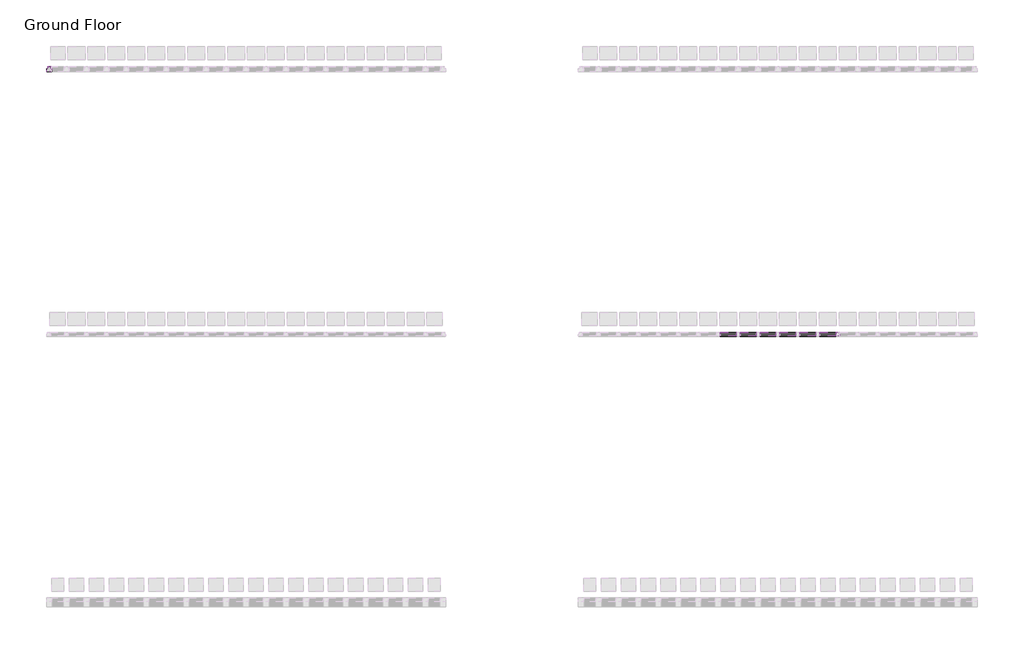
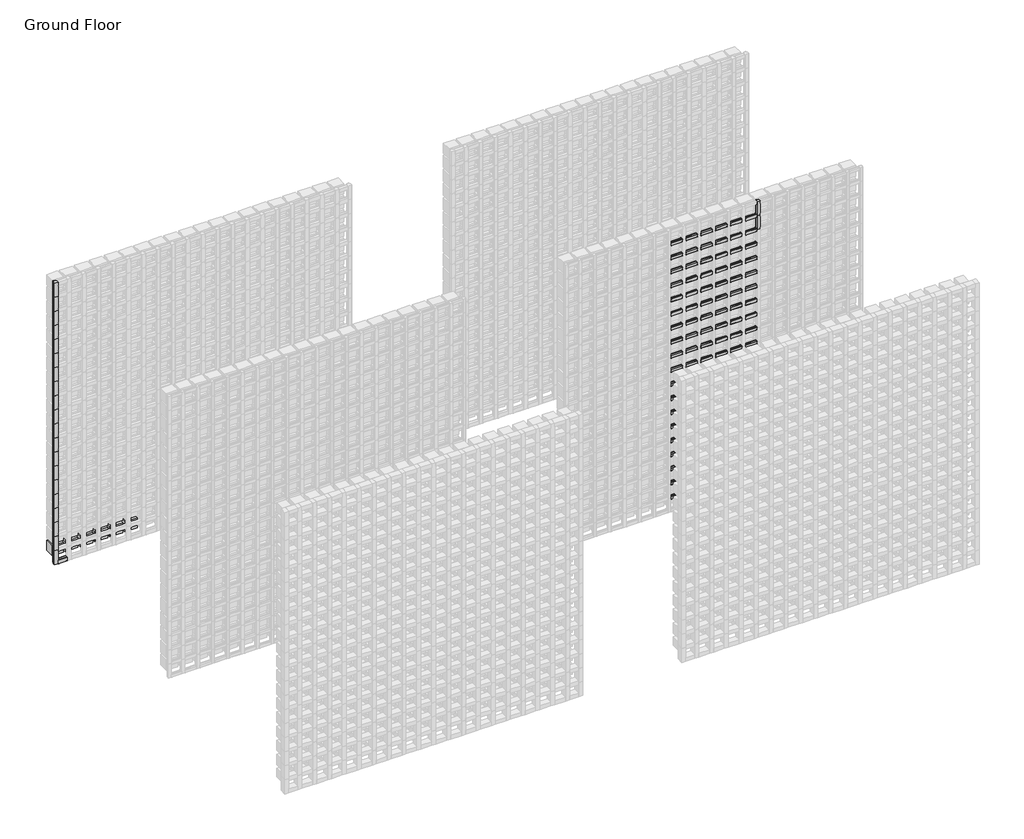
# One storey, part 108 of 350: 137 members, 6 plates.
"""IFC4 building model written with IfcOpenShell, lengths in millimetres."""

from ifc_helpers import new_model, si_unit, origin, place, context, project, spatial, transform, mapped, element, save
from components import rectangular_mullion_f1976eb1, rectangular_mullion_707a50c4, rectangular_mullion_b3ed1982, rectangular_mullion_db99d02b, empty_system_panel_empty_abd50de3, empty_system_panel_empty_5e80e148

model = new_model("IFC4")

# Units and contexts
model_context = context("Model", 3, world=origin())
ifc_project = project(units=[si_unit("LENGTHUNIT", "METRE", prefix="MILLI")], contexts=[model_context])

# Site, building, storey
site = spatial("IfcSite", under=ifc_project)
building = spatial("IfcBuilding", under=site)
storey = spatial("IfcBuildingStorey", under=building, Name="Ground Floor", Elevation=0.0)

# Members
placement = place(None, origin())
rectangular_mullion_shape = rectangular_mullion_f1976eb1(model_context)
element("IfcMember", 1, ObjectType="Rectangular Mullion : Batten_Timber_Modinex_Austratus_Grid_Fin_30x30_Blackbutt", at=placement, inside=storey, context=model_context, shape_type="MappedRepresentation", body=[
    mapped(rectangular_mullion_shape, transform((7866.4361642, 42968.2978302, 2700.0), x_axis=(1.0, 0.0, 0.0), y_axis=(0.0, -1.0, 0.0), z_axis=(0.0, 0.0, -1.0))),
])
element("IfcMember", 2, ObjectType="Rectangular Mullion : Batten_Timber_Modinex_Austratus_Grid_Fin_30x30_Blackbutt", at=placement, inside=storey, context=model_context, shape_type="MappedRepresentation", body=[
    mapped(rectangular_mullion_shape, transform((7866.4361642, 42968.2978302, 2850.0), x_axis=(1.0, 0.0, 0.0), y_axis=(0.0, -1.0, 0.0), z_axis=(0.0, 0.0, -1.0))),
])
rectangular_mullion_2_shape = rectangular_mullion_707a50c4(model_context)
element("IfcMember", 3, ObjectType="Rectangular Mullion : Batten_Timber_Modinex_Austratus_Grid_Fin_30x30_Blackbutt", at=placement, inside=storey, context=model_context, shape_type="MappedRepresentation", body=[
    mapped(rectangular_mullion_2_shape, transform((7101.4361642, 42968.2978302, 150.0), x_axis=(0.0, 0.0, 1.0), y_axis=(0.0, -1.0, 0.0), z_axis=(1.0, 0.0, 0.0))),
])
element("IfcMember", 4, ObjectType="Rectangular Mullion : Batten_Timber_Modinex_Austratus_Grid_Fin_30x30_Blackbutt", at=placement, inside=storey, context=model_context, shape_type="MappedRepresentation", body=[
    mapped(rectangular_mullion_2_shape, transform((7251.4361642, 42968.2978302, 150.0), x_axis=(0.0, 0.0, 1.0), y_axis=(0.0, -1.0, 0.0), z_axis=(1.0, 0.0, 0.0))),
])
element("IfcMember", 5, ObjectType="Rectangular Mullion : Batten_Timber_Modinex_Austratus_Grid_Fin_30x30_Blackbutt", at=placement, inside=storey, context=model_context, shape_type="MappedRepresentation", body=[
    mapped(rectangular_mullion_2_shape, transform((7401.4361642, 42968.2978302, 150.0), x_axis=(0.0, 0.0, 1.0), y_axis=(0.0, -1.0, 0.0), z_axis=(1.0, 0.0, 0.0))),
])
element("IfcMember", 6, ObjectType="Rectangular Mullion : Batten_Timber_Modinex_Austratus_Grid_Fin_30x30_Blackbutt", at=placement, inside=storey, context=model_context, shape_type="MappedRepresentation", body=[
    mapped(rectangular_mullion_2_shape, transform((7551.4361642, 42968.2978302, 150.0), x_axis=(0.0, 0.0, 1.0), y_axis=(0.0, -1.0, 0.0), z_axis=(1.0, 0.0, 0.0))),
])
element("IfcMember", 7, ObjectType="Rectangular Mullion : Batten_Timber_Modinex_Austratus_Grid_Fin_30x30_Blackbutt", at=placement, inside=storey, context=model_context, shape_type="MappedRepresentation", body=[
    mapped(rectangular_mullion_2_shape, transform((7701.4361642, 42968.2978302, 150.0), x_axis=(0.0, 0.0, 1.0), y_axis=(0.0, -1.0, 0.0), z_axis=(1.0, 0.0, 0.0))),
])
element("IfcMember", 8, ObjectType="Rectangular Mullion : Batten_Timber_Modinex_Austratus_Grid_Fin_30x30_Blackbutt", at=placement, inside=storey, context=model_context, shape_type="MappedRepresentation", body=[
    mapped(rectangular_mullion_2_shape, transform((7851.4361642, 42968.2978302, 150.0), x_axis=(0.0, 0.0, 1.0), y_axis=(0.0, -1.0, 0.0), z_axis=(1.0, 0.0, 0.0))),
])
element("IfcMember", 9, ObjectType="Rectangular Mullion : Batten_Timber_Modinex_Austratus_Grid_Fin_30x30_Blackbutt", at=placement, inside=storey, context=model_context, shape_type="MappedRepresentation", body=[
    mapped(rectangular_mullion_2_shape, transform((7101.4361642, 42968.2978302, 300.0), x_axis=(0.0, 0.0, 1.0), y_axis=(0.0, -1.0, 0.0), z_axis=(1.0, 0.0, 0.0))),
])
element("IfcMember", 10, ObjectType="Rectangular Mullion : Batten_Timber_Modinex_Austratus_Grid_Fin_30x30_Blackbutt", at=placement, inside=storey, context=model_context, shape_type="MappedRepresentation", body=[
    mapped(rectangular_mullion_2_shape, transform((7251.4361642, 42968.2978302, 300.0), x_axis=(0.0, 0.0, 1.0), y_axis=(0.0, -1.0, 0.0), z_axis=(1.0, 0.0, 0.0))),
])
element("IfcMember", 11, ObjectType="Rectangular Mullion : Batten_Timber_Modinex_Austratus_Grid_Fin_30x30_Blackbutt", at=placement, inside=storey, context=model_context, shape_type="MappedRepresentation", body=[
    mapped(rectangular_mullion_2_shape, transform((7401.4361642, 42968.2978302, 300.0), x_axis=(0.0, 0.0, 1.0), y_axis=(0.0, -1.0, 0.0), z_axis=(1.0, 0.0, 0.0))),
])
element("IfcMember", 12, ObjectType="Rectangular Mullion : Batten_Timber_Modinex_Austratus_Grid_Fin_30x30_Blackbutt", at=placement, inside=storey, context=model_context, shape_type="MappedRepresentation", body=[
    mapped(rectangular_mullion_2_shape, transform((7551.4361642, 42968.2978302, 300.0), x_axis=(0.0, 0.0, 1.0), y_axis=(0.0, -1.0, 0.0), z_axis=(1.0, 0.0, 0.0))),
])
element("IfcMember", 13, ObjectType="Rectangular Mullion : Batten_Timber_Modinex_Austratus_Grid_Fin_30x30_Blackbutt", at=placement, inside=storey, context=model_context, shape_type="MappedRepresentation", body=[
    mapped(rectangular_mullion_2_shape, transform((7701.4361642, 42968.2978302, 300.0), x_axis=(0.0, 0.0, 1.0), y_axis=(0.0, -1.0, 0.0), z_axis=(1.0, 0.0, 0.0))),
])
element("IfcMember", 14, ObjectType="Rectangular Mullion : Batten_Timber_Modinex_Austratus_Grid_Fin_30x30_Blackbutt", at=placement, inside=storey, context=model_context, shape_type="MappedRepresentation", body=[
    mapped(rectangular_mullion_2_shape, transform((7851.4361642, 42968.2978302, 300.0), x_axis=(0.0, 0.0, 1.0), y_axis=(0.0, -1.0, 0.0), z_axis=(1.0, 0.0, 0.0))),
])
element("IfcMember", 15, ObjectType="Rectangular Mullion : Batten_Timber_Modinex_Austratus_Grid_Fin_30x30_Blackbutt", at=placement, inside=storey, context=model_context, shape_type="MappedRepresentation", body=[
    mapped(rectangular_mullion_2_shape, transform((7101.4361642, 42968.2978302, 450.0), x_axis=(0.0, 0.0, 1.0), y_axis=(0.0, -1.0, 0.0), z_axis=(1.0, 0.0, 0.0))),
])
element("IfcMember", 16, ObjectType="Rectangular Mullion : Batten_Timber_Modinex_Austratus_Grid_Fin_30x30_Blackbutt", at=placement, inside=storey, context=model_context, shape_type="MappedRepresentation", body=[
    mapped(rectangular_mullion_2_shape, transform((7251.4361642, 42968.2978302, 450.0), x_axis=(0.0, 0.0, 1.0), y_axis=(0.0, -1.0, 0.0), z_axis=(1.0, 0.0, 0.0))),
])
element("IfcMember", 17, ObjectType="Rectangular Mullion : Batten_Timber_Modinex_Austratus_Grid_Fin_30x30_Blackbutt", at=placement, inside=storey, context=model_context, shape_type="MappedRepresentation", body=[
    mapped(rectangular_mullion_2_shape, transform((7401.4361642, 42968.2978302, 450.0), x_axis=(0.0, 0.0, 1.0), y_axis=(0.0, -1.0, 0.0), z_axis=(1.0, 0.0, 0.0))),
])
element("IfcMember", 18, ObjectType="Rectangular Mullion : Batten_Timber_Modinex_Austratus_Grid_Fin_30x30_Blackbutt", at=placement, inside=storey, context=model_context, shape_type="MappedRepresentation", body=[
    mapped(rectangular_mullion_2_shape, transform((7551.4361642, 42968.2978302, 450.0), x_axis=(0.0, 0.0, 1.0), y_axis=(0.0, -1.0, 0.0), z_axis=(1.0, 0.0, 0.0))),
])
element("IfcMember", 19, ObjectType="Rectangular Mullion : Batten_Timber_Modinex_Austratus_Grid_Fin_30x30_Blackbutt", at=placement, inside=storey, context=model_context, shape_type="MappedRepresentation", body=[
    mapped(rectangular_mullion_2_shape, transform((7701.4361642, 42968.2978302, 450.0), x_axis=(0.0, 0.0, 1.0), y_axis=(0.0, -1.0, 0.0), z_axis=(1.0, 0.0, 0.0))),
])
element("IfcMember", 20, ObjectType="Rectangular Mullion : Batten_Timber_Modinex_Austratus_Grid_Fin_30x30_Blackbutt", at=placement, inside=storey, context=model_context, shape_type="MappedRepresentation", body=[
    mapped(rectangular_mullion_2_shape, transform((7851.4361642, 42968.2978302, 450.0), x_axis=(0.0, 0.0, 1.0), y_axis=(0.0, -1.0, 0.0), z_axis=(1.0, 0.0, 0.0))),
])
element("IfcMember", 21, ObjectType="Rectangular Mullion : Batten_Timber_Modinex_Austratus_Grid_Fin_30x30_Blackbutt", at=placement, inside=storey, context=model_context, shape_type="MappedRepresentation", body=[
    mapped(rectangular_mullion_2_shape, transform((7101.4361642, 42968.2978302, 600.0), x_axis=(0.0, 0.0, 1.0), y_axis=(0.0, -1.0, 0.0), z_axis=(1.0, 0.0, 0.0))),
])
element("IfcMember", 22, ObjectType="Rectangular Mullion : Batten_Timber_Modinex_Austratus_Grid_Fin_30x30_Blackbutt", at=placement, inside=storey, context=model_context, shape_type="MappedRepresentation", body=[
    mapped(rectangular_mullion_2_shape, transform((7251.4361642, 42968.2978302, 600.0), x_axis=(0.0, 0.0, 1.0), y_axis=(0.0, -1.0, 0.0), z_axis=(1.0, 0.0, 0.0))),
])
element("IfcMember", 23, ObjectType="Rectangular Mullion : Batten_Timber_Modinex_Austratus_Grid_Fin_30x30_Blackbutt", at=placement, inside=storey, context=model_context, shape_type="MappedRepresentation", body=[
    mapped(rectangular_mullion_2_shape, transform((7401.4361642, 42968.2978302, 600.0), x_axis=(0.0, 0.0, 1.0), y_axis=(0.0, -1.0, 0.0), z_axis=(1.0, 0.0, 0.0))),
])
element("IfcMember", 24, ObjectType="Rectangular Mullion : Batten_Timber_Modinex_Austratus_Grid_Fin_30x30_Blackbutt", at=placement, inside=storey, context=model_context, shape_type="MappedRepresentation", body=[
    mapped(rectangular_mullion_2_shape, transform((7551.4361642, 42968.2978302, 600.0), x_axis=(0.0, 0.0, 1.0), y_axis=(0.0, -1.0, 0.0), z_axis=(1.0, 0.0, 0.0))),
])
element("IfcMember", 25, ObjectType="Rectangular Mullion : Batten_Timber_Modinex_Austratus_Grid_Fin_30x30_Blackbutt", at=placement, inside=storey, context=model_context, shape_type="MappedRepresentation", body=[
    mapped(rectangular_mullion_2_shape, transform((7701.4361642, 42968.2978302, 600.0), x_axis=(0.0, 0.0, 1.0), y_axis=(0.0, -1.0, 0.0), z_axis=(1.0, 0.0, 0.0))),
])
element("IfcMember", 26, ObjectType="Rectangular Mullion : Batten_Timber_Modinex_Austratus_Grid_Fin_30x30_Blackbutt", at=placement, inside=storey, context=model_context, shape_type="MappedRepresentation", body=[
    mapped(rectangular_mullion_2_shape, transform((7851.4361642, 42968.2978302, 600.0), x_axis=(0.0, 0.0, 1.0), y_axis=(0.0, -1.0, 0.0), z_axis=(1.0, 0.0, 0.0))),
])
element("IfcMember", 27, ObjectType="Rectangular Mullion : Batten_Timber_Modinex_Austratus_Grid_Fin_30x30_Blackbutt", at=placement, inside=storey, context=model_context, shape_type="MappedRepresentation", body=[
    mapped(rectangular_mullion_2_shape, transform((7101.4361642, 42968.2978302, 750.0), x_axis=(0.0, 0.0, 1.0), y_axis=(0.0, -1.0, 0.0), z_axis=(1.0, 0.0, 0.0))),
])
element("IfcMember", 28, ObjectType="Rectangular Mullion : Batten_Timber_Modinex_Austratus_Grid_Fin_30x30_Blackbutt", at=placement, inside=storey, context=model_context, shape_type="MappedRepresentation", body=[
    mapped(rectangular_mullion_2_shape, transform((7251.4361642, 42968.2978302, 750.0), x_axis=(0.0, 0.0, 1.0), y_axis=(0.0, -1.0, 0.0), z_axis=(1.0, 0.0, 0.0))),
])
element("IfcMember", 29, ObjectType="Rectangular Mullion : Batten_Timber_Modinex_Austratus_Grid_Fin_30x30_Blackbutt", at=placement, inside=storey, context=model_context, shape_type="MappedRepresentation", body=[
    mapped(rectangular_mullion_2_shape, transform((7401.4361642, 42968.2978302, 750.0), x_axis=(0.0, 0.0, 1.0), y_axis=(0.0, -1.0, 0.0), z_axis=(1.0, 0.0, 0.0))),
])
element("IfcMember", 30, ObjectType="Rectangular Mullion : Batten_Timber_Modinex_Austratus_Grid_Fin_30x30_Blackbutt", at=placement, inside=storey, context=model_context, shape_type="MappedRepresentation", body=[
    mapped(rectangular_mullion_2_shape, transform((7551.4361642, 42968.2978302, 750.0), x_axis=(0.0, 0.0, 1.0), y_axis=(0.0, -1.0, 0.0), z_axis=(1.0, 0.0, 0.0))),
])
element("IfcMember", 31, ObjectType="Rectangular Mullion : Batten_Timber_Modinex_Austratus_Grid_Fin_30x30_Blackbutt", at=placement, inside=storey, context=model_context, shape_type="MappedRepresentation", body=[
    mapped(rectangular_mullion_2_shape, transform((7701.4361642, 42968.2978302, 750.0), x_axis=(0.0, 0.0, 1.0), y_axis=(0.0, -1.0, 0.0), z_axis=(1.0, 0.0, 0.0))),
])
element("IfcMember", 32, ObjectType="Rectangular Mullion : Batten_Timber_Modinex_Austratus_Grid_Fin_30x30_Blackbutt", at=placement, inside=storey, context=model_context, shape_type="MappedRepresentation", body=[
    mapped(rectangular_mullion_2_shape, transform((7851.4361642, 42968.2978302, 750.0), x_axis=(0.0, 0.0, 1.0), y_axis=(0.0, -1.0, 0.0), z_axis=(1.0, 0.0, 0.0))),
])
element("IfcMember", 33, ObjectType="Rectangular Mullion : Batten_Timber_Modinex_Austratus_Grid_Fin_30x30_Blackbutt", at=placement, inside=storey, context=model_context, shape_type="MappedRepresentation", body=[
    mapped(rectangular_mullion_2_shape, transform((7101.4361642, 42968.2978302, 900.0), x_axis=(0.0, 0.0, 1.0), y_axis=(0.0, -1.0, 0.0), z_axis=(1.0, 0.0, 0.0))),
])
element("IfcMember", 34, ObjectType="Rectangular Mullion : Batten_Timber_Modinex_Austratus_Grid_Fin_30x30_Blackbutt", at=placement, inside=storey, context=model_context, shape_type="MappedRepresentation", body=[
    mapped(rectangular_mullion_2_shape, transform((7251.4361642, 42968.2978302, 900.0), x_axis=(0.0, 0.0, 1.0), y_axis=(0.0, -1.0, 0.0), z_axis=(1.0, 0.0, 0.0))),
])
element("IfcMember", 35, ObjectType="Rectangular Mullion : Batten_Timber_Modinex_Austratus_Grid_Fin_30x30_Blackbutt", at=placement, inside=storey, context=model_context, shape_type="MappedRepresentation", body=[
    mapped(rectangular_mullion_2_shape, transform((7401.4361642, 42968.2978302, 900.0), x_axis=(0.0, 0.0, 1.0), y_axis=(0.0, -1.0, 0.0), z_axis=(1.0, 0.0, 0.0))),
])
element("IfcMember", 36, ObjectType="Rectangular Mullion : Batten_Timber_Modinex_Austratus_Grid_Fin_30x30_Blackbutt", at=placement, inside=storey, context=model_context, shape_type="MappedRepresentation", body=[
    mapped(rectangular_mullion_2_shape, transform((7551.4361642, 42968.2978302, 900.0), x_axis=(0.0, 0.0, 1.0), y_axis=(0.0, -1.0, 0.0), z_axis=(1.0, 0.0, 0.0))),
])
element("IfcMember", 37, ObjectType="Rectangular Mullion : Batten_Timber_Modinex_Austratus_Grid_Fin_30x30_Blackbutt", at=placement, inside=storey, context=model_context, shape_type="MappedRepresentation", body=[
    mapped(rectangular_mullion_2_shape, transform((7701.4361642, 42968.2978302, 900.0), x_axis=(0.0, 0.0, 1.0), y_axis=(0.0, -1.0, 0.0), z_axis=(1.0, 0.0, 0.0))),
])
element("IfcMember", 38, ObjectType="Rectangular Mullion : Batten_Timber_Modinex_Austratus_Grid_Fin_30x30_Blackbutt", at=placement, inside=storey, context=model_context, shape_type="MappedRepresentation", body=[
    mapped(rectangular_mullion_2_shape, transform((7851.4361642, 42968.2978302, 900.0), x_axis=(0.0, 0.0, 1.0), y_axis=(0.0, -1.0, 0.0), z_axis=(1.0, 0.0, 0.0))),
])
element("IfcMember", 39, ObjectType="Rectangular Mullion : Batten_Timber_Modinex_Austratus_Grid_Fin_30x30_Blackbutt", at=placement, inside=storey, context=model_context, shape_type="MappedRepresentation", body=[
    mapped(rectangular_mullion_2_shape, transform((7101.4361642, 42968.2978302, 1050.0), x_axis=(0.0, 0.0, 1.0), y_axis=(0.0, -1.0, 0.0), z_axis=(1.0, 0.0, 0.0))),
])
element("IfcMember", 40, ObjectType="Rectangular Mullion : Batten_Timber_Modinex_Austratus_Grid_Fin_30x30_Blackbutt", at=placement, inside=storey, context=model_context, shape_type="MappedRepresentation", body=[
    mapped(rectangular_mullion_2_shape, transform((7251.4361642, 42968.2978302, 1050.0), x_axis=(0.0, 0.0, 1.0), y_axis=(0.0, -1.0, 0.0), z_axis=(1.0, 0.0, 0.0))),
])
element("IfcMember", 41, ObjectType="Rectangular Mullion : Batten_Timber_Modinex_Austratus_Grid_Fin_30x30_Blackbutt", at=placement, inside=storey, context=model_context, shape_type="MappedRepresentation", body=[
    mapped(rectangular_mullion_2_shape, transform((7401.4361642, 42968.2978302, 1050.0), x_axis=(0.0, 0.0, 1.0), y_axis=(0.0, -1.0, 0.0), z_axis=(1.0, 0.0, 0.0))),
])
element("IfcMember", 42, ObjectType="Rectangular Mullion : Batten_Timber_Modinex_Austratus_Grid_Fin_30x30_Blackbutt", at=placement, inside=storey, context=model_context, shape_type="MappedRepresentation", body=[
    mapped(rectangular_mullion_2_shape, transform((7551.4361642, 42968.2978302, 1050.0), x_axis=(0.0, 0.0, 1.0), y_axis=(0.0, -1.0, 0.0), z_axis=(1.0, 0.0, 0.0))),
])
element("IfcMember", 43, ObjectType="Rectangular Mullion : Batten_Timber_Modinex_Austratus_Grid_Fin_30x30_Blackbutt", at=placement, inside=storey, context=model_context, shape_type="MappedRepresentation", body=[
    mapped(rectangular_mullion_2_shape, transform((7701.4361642, 42968.2978302, 1050.0), x_axis=(0.0, 0.0, 1.0), y_axis=(0.0, -1.0, 0.0), z_axis=(1.0, 0.0, 0.0))),
])
element("IfcMember", 44, ObjectType="Rectangular Mullion : Batten_Timber_Modinex_Austratus_Grid_Fin_30x30_Blackbutt", at=placement, inside=storey, context=model_context, shape_type="MappedRepresentation", body=[
    mapped(rectangular_mullion_2_shape, transform((7851.4361642, 42968.2978302, 1050.0), x_axis=(0.0, 0.0, 1.0), y_axis=(0.0, -1.0, 0.0), z_axis=(1.0, 0.0, 0.0))),
])
element("IfcMember", 45, ObjectType="Rectangular Mullion : Batten_Timber_Modinex_Austratus_Grid_Fin_30x30_Blackbutt", at=placement, inside=storey, context=model_context, shape_type="MappedRepresentation", body=[
    mapped(rectangular_mullion_2_shape, transform((7101.4361642, 42968.2978302, 1200.0), x_axis=(0.0, 0.0, 1.0), y_axis=(0.0, -1.0, 0.0), z_axis=(1.0, 0.0, 0.0))),
])
element("IfcMember", 46, ObjectType="Rectangular Mullion : Batten_Timber_Modinex_Austratus_Grid_Fin_30x30_Blackbutt", at=placement, inside=storey, context=model_context, shape_type="MappedRepresentation", body=[
    mapped(rectangular_mullion_2_shape, transform((7251.4361642, 42968.2978302, 1200.0), x_axis=(0.0, 0.0, 1.0), y_axis=(0.0, -1.0, 0.0), z_axis=(1.0, 0.0, 0.0))),
])
element("IfcMember", 47, ObjectType="Rectangular Mullion : Batten_Timber_Modinex_Austratus_Grid_Fin_30x30_Blackbutt", at=placement, inside=storey, context=model_context, shape_type="MappedRepresentation", body=[
    mapped(rectangular_mullion_2_shape, transform((7401.4361642, 42968.2978302, 1200.0), x_axis=(0.0, 0.0, 1.0), y_axis=(0.0, -1.0, 0.0), z_axis=(1.0, 0.0, 0.0))),
])
element("IfcMember", 48, ObjectType="Rectangular Mullion : Batten_Timber_Modinex_Austratus_Grid_Fin_30x30_Blackbutt", at=placement, inside=storey, context=model_context, shape_type="MappedRepresentation", body=[
    mapped(rectangular_mullion_2_shape, transform((7551.4361642, 42968.2978302, 1200.0), x_axis=(0.0, 0.0, 1.0), y_axis=(0.0, -1.0, 0.0), z_axis=(1.0, 0.0, 0.0))),
])
element("IfcMember", 49, ObjectType="Rectangular Mullion : Batten_Timber_Modinex_Austratus_Grid_Fin_30x30_Blackbutt", at=placement, inside=storey, context=model_context, shape_type="MappedRepresentation", body=[
    mapped(rectangular_mullion_2_shape, transform((7701.4361642, 42968.2978302, 1200.0), x_axis=(0.0, 0.0, 1.0), y_axis=(0.0, -1.0, 0.0), z_axis=(1.0, 0.0, 0.0))),
])
element("IfcMember", 50, ObjectType="Rectangular Mullion : Batten_Timber_Modinex_Austratus_Grid_Fin_30x30_Blackbutt", at=placement, inside=storey, context=model_context, shape_type="MappedRepresentation", body=[
    mapped(rectangular_mullion_2_shape, transform((7851.4361642, 42968.2978302, 1200.0), x_axis=(0.0, 0.0, 1.0), y_axis=(0.0, -1.0, 0.0), z_axis=(1.0, 0.0, 0.0))),
])
element("IfcMember", 51, ObjectType="Rectangular Mullion : Batten_Timber_Modinex_Austratus_Grid_Fin_30x30_Blackbutt", at=placement, inside=storey, context=model_context, shape_type="MappedRepresentation", body=[
    mapped(rectangular_mullion_2_shape, transform((7101.4361642, 42968.2978302, 1350.0), x_axis=(0.0, 0.0, 1.0), y_axis=(0.0, -1.0, 0.0), z_axis=(1.0, 0.0, 0.0))),
])
element("IfcMember", 52, ObjectType="Rectangular Mullion : Batten_Timber_Modinex_Austratus_Grid_Fin_30x30_Blackbutt", at=placement, inside=storey, context=model_context, shape_type="MappedRepresentation", body=[
    mapped(rectangular_mullion_2_shape, transform((7251.4361642, 42968.2978302, 1350.0), x_axis=(0.0, 0.0, 1.0), y_axis=(0.0, -1.0, 0.0), z_axis=(1.0, 0.0, 0.0))),
])
element("IfcMember", 53, ObjectType="Rectangular Mullion : Batten_Timber_Modinex_Austratus_Grid_Fin_30x30_Blackbutt", at=placement, inside=storey, context=model_context, shape_type="MappedRepresentation", body=[
    mapped(rectangular_mullion_2_shape, transform((7401.4361642, 42968.2978302, 1350.0), x_axis=(0.0, 0.0, 1.0), y_axis=(0.0, -1.0, 0.0), z_axis=(1.0, 0.0, 0.0))),
])
element("IfcMember", 54, ObjectType="Rectangular Mullion : Batten_Timber_Modinex_Austratus_Grid_Fin_30x30_Blackbutt", at=placement, inside=storey, context=model_context, shape_type="MappedRepresentation", body=[
    mapped(rectangular_mullion_2_shape, transform((7551.4361642, 42968.2978302, 1350.0), x_axis=(0.0, 0.0, 1.0), y_axis=(0.0, -1.0, 0.0), z_axis=(1.0, 0.0, 0.0))),
])
element("IfcMember", 55, ObjectType="Rectangular Mullion : Batten_Timber_Modinex_Austratus_Grid_Fin_30x30_Blackbutt", at=placement, inside=storey, context=model_context, shape_type="MappedRepresentation", body=[
    mapped(rectangular_mullion_2_shape, transform((7701.4361642, 42968.2978302, 1350.0), x_axis=(0.0, 0.0, 1.0), y_axis=(0.0, -1.0, 0.0), z_axis=(1.0, 0.0, 0.0))),
])
element("IfcMember", 56, ObjectType="Rectangular Mullion : Batten_Timber_Modinex_Austratus_Grid_Fin_30x30_Blackbutt", at=placement, inside=storey, context=model_context, shape_type="MappedRepresentation", body=[
    mapped(rectangular_mullion_2_shape, transform((7851.4361642, 42968.2978302, 1350.0), x_axis=(0.0, 0.0, 1.0), y_axis=(0.0, -1.0, 0.0), z_axis=(1.0, 0.0, 0.0))),
])
element("IfcMember", 57, ObjectType="Rectangular Mullion : Batten_Timber_Modinex_Austratus_Grid_Fin_30x30_Blackbutt", at=placement, inside=storey, context=model_context, shape_type="MappedRepresentation", body=[
    mapped(rectangular_mullion_2_shape, transform((7101.4361642, 42968.2978302, 1500.0), x_axis=(0.0, 0.0, 1.0), y_axis=(0.0, -1.0, 0.0), z_axis=(1.0, 0.0, 0.0))),
])
element("IfcMember", 58, ObjectType="Rectangular Mullion : Batten_Timber_Modinex_Austratus_Grid_Fin_30x30_Blackbutt", at=placement, inside=storey, context=model_context, shape_type="MappedRepresentation", body=[
    mapped(rectangular_mullion_2_shape, transform((7251.4361642, 42968.2978302, 1500.0), x_axis=(0.0, 0.0, 1.0), y_axis=(0.0, -1.0, 0.0), z_axis=(1.0, 0.0, 0.0))),
])
element("IfcMember", 59, ObjectType="Rectangular Mullion : Batten_Timber_Modinex_Austratus_Grid_Fin_30x30_Blackbutt", at=placement, inside=storey, context=model_context, shape_type="MappedRepresentation", body=[
    mapped(rectangular_mullion_2_shape, transform((7401.4361642, 42968.2978302, 1500.0), x_axis=(0.0, 0.0, 1.0), y_axis=(0.0, -1.0, 0.0), z_axis=(1.0, 0.0, 0.0))),
])
element("IfcMember", 60, ObjectType="Rectangular Mullion : Batten_Timber_Modinex_Austratus_Grid_Fin_30x30_Blackbutt", at=placement, inside=storey, context=model_context, shape_type="MappedRepresentation", body=[
    mapped(rectangular_mullion_2_shape, transform((7551.4361642, 42968.2978302, 1500.0), x_axis=(0.0, 0.0, 1.0), y_axis=(0.0, -1.0, 0.0), z_axis=(1.0, 0.0, 0.0))),
])
element("IfcMember", 61, ObjectType="Rectangular Mullion : Batten_Timber_Modinex_Austratus_Grid_Fin_30x30_Blackbutt", at=placement, inside=storey, context=model_context, shape_type="MappedRepresentation", body=[
    mapped(rectangular_mullion_2_shape, transform((7701.4361642, 42968.2978302, 1500.0), x_axis=(0.0, 0.0, 1.0), y_axis=(0.0, -1.0, 0.0), z_axis=(1.0, 0.0, 0.0))),
])
element("IfcMember", 62, ObjectType="Rectangular Mullion : Batten_Timber_Modinex_Austratus_Grid_Fin_30x30_Blackbutt", at=placement, inside=storey, context=model_context, shape_type="MappedRepresentation", body=[
    mapped(rectangular_mullion_2_shape, transform((7851.4361642, 42968.2978302, 1500.0), x_axis=(0.0, 0.0, 1.0), y_axis=(0.0, -1.0, 0.0), z_axis=(1.0, 0.0, 0.0))),
])
element("IfcMember", 63, ObjectType="Rectangular Mullion : Batten_Timber_Modinex_Austratus_Grid_Fin_30x30_Blackbutt", at=placement, inside=storey, context=model_context, shape_type="MappedRepresentation", body=[
    mapped(rectangular_mullion_2_shape, transform((7101.4361642, 42968.2978302, 1650.0), x_axis=(0.0, 0.0, 1.0), y_axis=(0.0, -1.0, 0.0), z_axis=(1.0, 0.0, 0.0))),
])
element("IfcMember", 64, ObjectType="Rectangular Mullion : Batten_Timber_Modinex_Austratus_Grid_Fin_30x30_Blackbutt", at=placement, inside=storey, context=model_context, shape_type="MappedRepresentation", body=[
    mapped(rectangular_mullion_2_shape, transform((7251.4361642, 42968.2978302, 1650.0), x_axis=(0.0, 0.0, 1.0), y_axis=(0.0, -1.0, 0.0), z_axis=(1.0, 0.0, 0.0))),
])
element("IfcMember", 65, ObjectType="Rectangular Mullion : Batten_Timber_Modinex_Austratus_Grid_Fin_30x30_Blackbutt", at=placement, inside=storey, context=model_context, shape_type="MappedRepresentation", body=[
    mapped(rectangular_mullion_2_shape, transform((7401.4361642, 42968.2978302, 1650.0), x_axis=(0.0, 0.0, 1.0), y_axis=(0.0, -1.0, 0.0), z_axis=(1.0, 0.0, 0.0))),
])
element("IfcMember", 66, ObjectType="Rectangular Mullion : Batten_Timber_Modinex_Austratus_Grid_Fin_30x30_Blackbutt", at=placement, inside=storey, context=model_context, shape_type="MappedRepresentation", body=[
    mapped(rectangular_mullion_2_shape, transform((7551.4361642, 42968.2978302, 1650.0), x_axis=(0.0, 0.0, 1.0), y_axis=(0.0, -1.0, 0.0), z_axis=(1.0, 0.0, 0.0))),
])
element("IfcMember", 67, ObjectType="Rectangular Mullion : Batten_Timber_Modinex_Austratus_Grid_Fin_30x30_Blackbutt", at=placement, inside=storey, context=model_context, shape_type="MappedRepresentation", body=[
    mapped(rectangular_mullion_2_shape, transform((7701.4361642, 42968.2978302, 1650.0), x_axis=(0.0, 0.0, 1.0), y_axis=(0.0, -1.0, 0.0), z_axis=(1.0, 0.0, 0.0))),
])
element("IfcMember", 68, ObjectType="Rectangular Mullion : Batten_Timber_Modinex_Austratus_Grid_Fin_30x30_Blackbutt", at=placement, inside=storey, context=model_context, shape_type="MappedRepresentation", body=[
    mapped(rectangular_mullion_2_shape, transform((7851.4361642, 42968.2978302, 1650.0), x_axis=(0.0, 0.0, 1.0), y_axis=(0.0, -1.0, 0.0), z_axis=(1.0, 0.0, 0.0))),
])
element("IfcMember", 69, ObjectType="Rectangular Mullion : Batten_Timber_Modinex_Austratus_Grid_Fin_30x30_Blackbutt", at=placement, inside=storey, context=model_context, shape_type="MappedRepresentation", body=[
    mapped(rectangular_mullion_2_shape, transform((7101.4361642, 42968.2978302, 1800.0), x_axis=(0.0, 0.0, 1.0), y_axis=(0.0, -1.0, 0.0), z_axis=(1.0, 0.0, 0.0))),
])
element("IfcMember", 70, ObjectType="Rectangular Mullion : Batten_Timber_Modinex_Austratus_Grid_Fin_30x30_Blackbutt", at=placement, inside=storey, context=model_context, shape_type="MappedRepresentation", body=[
    mapped(rectangular_mullion_2_shape, transform((7251.4361642, 42968.2978302, 1800.0), x_axis=(0.0, 0.0, 1.0), y_axis=(0.0, -1.0, 0.0), z_axis=(1.0, 0.0, 0.0))),
])
element("IfcMember", 71, ObjectType="Rectangular Mullion : Batten_Timber_Modinex_Austratus_Grid_Fin_30x30_Blackbutt", at=placement, inside=storey, context=model_context, shape_type="MappedRepresentation", body=[
    mapped(rectangular_mullion_2_shape, transform((7401.4361642, 42968.2978302, 1800.0), x_axis=(0.0, 0.0, 1.0), y_axis=(0.0, -1.0, 0.0), z_axis=(1.0, 0.0, 0.0))),
])
element("IfcMember", 72, ObjectType="Rectangular Mullion : Batten_Timber_Modinex_Austratus_Grid_Fin_30x30_Blackbutt", at=placement, inside=storey, context=model_context, shape_type="MappedRepresentation", body=[
    mapped(rectangular_mullion_2_shape, transform((7551.4361642, 42968.2978302, 1800.0), x_axis=(0.0, 0.0, 1.0), y_axis=(0.0, -1.0, 0.0), z_axis=(1.0, 0.0, 0.0))),
])
element("IfcMember", 73, ObjectType="Rectangular Mullion : Batten_Timber_Modinex_Austratus_Grid_Fin_30x30_Blackbutt", at=placement, inside=storey, context=model_context, shape_type="MappedRepresentation", body=[
    mapped(rectangular_mullion_2_shape, transform((7701.4361642, 42968.2978302, 1800.0), x_axis=(0.0, 0.0, 1.0), y_axis=(0.0, -1.0, 0.0), z_axis=(1.0, 0.0, 0.0))),
])
element("IfcMember", 74, ObjectType="Rectangular Mullion : Batten_Timber_Modinex_Austratus_Grid_Fin_30x30_Blackbutt", at=placement, inside=storey, context=model_context, shape_type="MappedRepresentation", body=[
    mapped(rectangular_mullion_2_shape, transform((7851.4361642, 42968.2978302, 1800.0), x_axis=(0.0, 0.0, 1.0), y_axis=(0.0, -1.0, 0.0), z_axis=(1.0, 0.0, 0.0))),
])
element("IfcMember", 75, ObjectType="Rectangular Mullion : Batten_Timber_Modinex_Austratus_Grid_Fin_30x30_Blackbutt", at=placement, inside=storey, context=model_context, shape_type="MappedRepresentation", body=[
    mapped(rectangular_mullion_2_shape, transform((7101.4361642, 42968.2978302, 1950.0), x_axis=(0.0, 0.0, 1.0), y_axis=(0.0, -1.0, 0.0), z_axis=(1.0, 0.0, 0.0))),
])
element("IfcMember", 76, ObjectType="Rectangular Mullion : Batten_Timber_Modinex_Austratus_Grid_Fin_30x30_Blackbutt", at=placement, inside=storey, context=model_context, shape_type="MappedRepresentation", body=[
    mapped(rectangular_mullion_2_shape, transform((7251.4361642, 42968.2978302, 1950.0), x_axis=(0.0, 0.0, 1.0), y_axis=(0.0, -1.0, 0.0), z_axis=(1.0, 0.0, 0.0))),
])
element("IfcMember", 77, ObjectType="Rectangular Mullion : Batten_Timber_Modinex_Austratus_Grid_Fin_30x30_Blackbutt", at=placement, inside=storey, context=model_context, shape_type="MappedRepresentation", body=[
    mapped(rectangular_mullion_2_shape, transform((7401.4361642, 42968.2978302, 1950.0), x_axis=(0.0, 0.0, 1.0), y_axis=(0.0, -1.0, 0.0), z_axis=(1.0, 0.0, 0.0))),
])
element("IfcMember", 78, ObjectType="Rectangular Mullion : Batten_Timber_Modinex_Austratus_Grid_Fin_30x30_Blackbutt", at=placement, inside=storey, context=model_context, shape_type="MappedRepresentation", body=[
    mapped(rectangular_mullion_2_shape, transform((7551.4361642, 42968.2978302, 1950.0), x_axis=(0.0, 0.0, 1.0), y_axis=(0.0, -1.0, 0.0), z_axis=(1.0, 0.0, 0.0))),
])
element("IfcMember", 79, ObjectType="Rectangular Mullion : Batten_Timber_Modinex_Austratus_Grid_Fin_30x30_Blackbutt", at=placement, inside=storey, context=model_context, shape_type="MappedRepresentation", body=[
    mapped(rectangular_mullion_2_shape, transform((7701.4361642, 42968.2978302, 1950.0), x_axis=(0.0, 0.0, 1.0), y_axis=(0.0, -1.0, 0.0), z_axis=(1.0, 0.0, 0.0))),
])
element("IfcMember", 80, ObjectType="Rectangular Mullion : Batten_Timber_Modinex_Austratus_Grid_Fin_30x30_Blackbutt", at=placement, inside=storey, context=model_context, shape_type="MappedRepresentation", body=[
    mapped(rectangular_mullion_2_shape, transform((7851.4361642, 42968.2978302, 1950.0), x_axis=(0.0, 0.0, 1.0), y_axis=(0.0, -1.0, 0.0), z_axis=(1.0, 0.0, 0.0))),
])
element("IfcMember", 81, ObjectType="Rectangular Mullion : Batten_Timber_Modinex_Austratus_Grid_Fin_30x30_Blackbutt", at=placement, inside=storey, context=model_context, shape_type="MappedRepresentation", body=[
    mapped(rectangular_mullion_2_shape, transform((7101.4361642, 42968.2978302, 2100.0), x_axis=(0.0, 0.0, 1.0), y_axis=(0.0, -1.0, 0.0), z_axis=(1.0, 0.0, 0.0))),
])
element("IfcMember", 82, ObjectType="Rectangular Mullion : Batten_Timber_Modinex_Austratus_Grid_Fin_30x30_Blackbutt", at=placement, inside=storey, context=model_context, shape_type="MappedRepresentation", body=[
    mapped(rectangular_mullion_2_shape, transform((7251.4361642, 42968.2978302, 2100.0), x_axis=(0.0, 0.0, 1.0), y_axis=(0.0, -1.0, 0.0), z_axis=(1.0, 0.0, 0.0))),
])
element("IfcMember", 83, ObjectType="Rectangular Mullion : Batten_Timber_Modinex_Austratus_Grid_Fin_30x30_Blackbutt", at=placement, inside=storey, context=model_context, shape_type="MappedRepresentation", body=[
    mapped(rectangular_mullion_2_shape, transform((7401.4361642, 42968.2978302, 2100.0), x_axis=(0.0, 0.0, 1.0), y_axis=(0.0, -1.0, 0.0), z_axis=(1.0, 0.0, 0.0))),
])
element("IfcMember", 84, ObjectType="Rectangular Mullion : Batten_Timber_Modinex_Austratus_Grid_Fin_30x30_Blackbutt", at=placement, inside=storey, context=model_context, shape_type="MappedRepresentation", body=[
    mapped(rectangular_mullion_2_shape, transform((7551.4361642, 42968.2978302, 2100.0), x_axis=(0.0, 0.0, 1.0), y_axis=(0.0, -1.0, 0.0), z_axis=(1.0, 0.0, 0.0))),
])
element("IfcMember", 85, ObjectType="Rectangular Mullion : Batten_Timber_Modinex_Austratus_Grid_Fin_30x30_Blackbutt", at=placement, inside=storey, context=model_context, shape_type="MappedRepresentation", body=[
    mapped(rectangular_mullion_2_shape, transform((7701.4361642, 42968.2978302, 2100.0), x_axis=(0.0, 0.0, 1.0), y_axis=(0.0, -1.0, 0.0), z_axis=(1.0, 0.0, 0.0))),
])
element("IfcMember", 86, ObjectType="Rectangular Mullion : Batten_Timber_Modinex_Austratus_Grid_Fin_30x30_Blackbutt", at=placement, inside=storey, context=model_context, shape_type="MappedRepresentation", body=[
    mapped(rectangular_mullion_2_shape, transform((7851.4361642, 42968.2978302, 2100.0), x_axis=(0.0, 0.0, 1.0), y_axis=(0.0, -1.0, 0.0), z_axis=(1.0, 0.0, 0.0))),
])
element("IfcMember", 87, ObjectType="Rectangular Mullion : Batten_Timber_Modinex_Austratus_Grid_Fin_30x30_Blackbutt", at=placement, inside=storey, context=model_context, shape_type="MappedRepresentation", body=[
    mapped(rectangular_mullion_2_shape, transform((7101.4361642, 42968.2978302, 2250.0), x_axis=(0.0, 0.0, 1.0), y_axis=(0.0, -1.0, 0.0), z_axis=(1.0, 0.0, 0.0))),
])
element("IfcMember", 88, ObjectType="Rectangular Mullion : Batten_Timber_Modinex_Austratus_Grid_Fin_30x30_Blackbutt", at=placement, inside=storey, context=model_context, shape_type="MappedRepresentation", body=[
    mapped(rectangular_mullion_2_shape, transform((7251.4361642, 42968.2978302, 2250.0), x_axis=(0.0, 0.0, 1.0), y_axis=(0.0, -1.0, 0.0), z_axis=(1.0, 0.0, 0.0))),
])
element("IfcMember", 89, ObjectType="Rectangular Mullion : Batten_Timber_Modinex_Austratus_Grid_Fin_30x30_Blackbutt", at=placement, inside=storey, context=model_context, shape_type="MappedRepresentation", body=[
    mapped(rectangular_mullion_2_shape, transform((7401.4361642, 42968.2978302, 2250.0), x_axis=(0.0, 0.0, 1.0), y_axis=(0.0, -1.0, 0.0), z_axis=(1.0, 0.0, 0.0))),
])
element("IfcMember", 90, ObjectType="Rectangular Mullion : Batten_Timber_Modinex_Austratus_Grid_Fin_30x30_Blackbutt", at=placement, inside=storey, context=model_context, shape_type="MappedRepresentation", body=[
    mapped(rectangular_mullion_2_shape, transform((7551.4361642, 42968.2978302, 2250.0), x_axis=(0.0, 0.0, 1.0), y_axis=(0.0, -1.0, 0.0), z_axis=(1.0, 0.0, 0.0))),
])
element("IfcMember", 91, ObjectType="Rectangular Mullion : Batten_Timber_Modinex_Austratus_Grid_Fin_30x30_Blackbutt", at=placement, inside=storey, context=model_context, shape_type="MappedRepresentation", body=[
    mapped(rectangular_mullion_2_shape, transform((7701.4361642, 42968.2978302, 2250.0), x_axis=(0.0, 0.0, 1.0), y_axis=(0.0, -1.0, 0.0), z_axis=(1.0, 0.0, 0.0))),
])
element("IfcMember", 92, ObjectType="Rectangular Mullion : Batten_Timber_Modinex_Austratus_Grid_Fin_30x30_Blackbutt", at=placement, inside=storey, context=model_context, shape_type="MappedRepresentation", body=[
    mapped(rectangular_mullion_2_shape, transform((7851.4361642, 42968.2978302, 2250.0), x_axis=(0.0, 0.0, 1.0), y_axis=(0.0, -1.0, 0.0), z_axis=(1.0, 0.0, 0.0))),
])
element("IfcMember", 93, ObjectType="Rectangular Mullion : Batten_Timber_Modinex_Austratus_Grid_Fin_30x30_Blackbutt", at=placement, inside=storey, context=model_context, shape_type="MappedRepresentation", body=[
    mapped(rectangular_mullion_2_shape, transform((7101.4361642, 42968.2978302, 2400.0), x_axis=(0.0, 0.0, 1.0), y_axis=(0.0, -1.0, 0.0), z_axis=(1.0, 0.0, 0.0))),
])
element("IfcMember", 94, ObjectType="Rectangular Mullion : Batten_Timber_Modinex_Austratus_Grid_Fin_30x30_Blackbutt", at=placement, inside=storey, context=model_context, shape_type="MappedRepresentation", body=[
    mapped(rectangular_mullion_2_shape, transform((7251.4361642, 42968.2978302, 2400.0), x_axis=(0.0, 0.0, 1.0), y_axis=(0.0, -1.0, 0.0), z_axis=(1.0, 0.0, 0.0))),
])
element("IfcMember", 95, ObjectType="Rectangular Mullion : Batten_Timber_Modinex_Austratus_Grid_Fin_30x30_Blackbutt", at=placement, inside=storey, context=model_context, shape_type="MappedRepresentation", body=[
    mapped(rectangular_mullion_2_shape, transform((7401.4361642, 42968.2978302, 2400.0), x_axis=(0.0, 0.0, 1.0), y_axis=(0.0, -1.0, 0.0), z_axis=(1.0, 0.0, 0.0))),
])
element("IfcMember", 96, ObjectType="Rectangular Mullion : Batten_Timber_Modinex_Austratus_Grid_Fin_30x30_Blackbutt", at=placement, inside=storey, context=model_context, shape_type="MappedRepresentation", body=[
    mapped(rectangular_mullion_2_shape, transform((7551.4361642, 42968.2978302, 2400.0), x_axis=(0.0, 0.0, 1.0), y_axis=(0.0, -1.0, 0.0), z_axis=(1.0, 0.0, 0.0))),
])
element("IfcMember", 97, ObjectType="Rectangular Mullion : Batten_Timber_Modinex_Austratus_Grid_Fin_30x30_Blackbutt", at=placement, inside=storey, context=model_context, shape_type="MappedRepresentation", body=[
    mapped(rectangular_mullion_2_shape, transform((7701.4361642, 42968.2978302, 2400.0), x_axis=(0.0, 0.0, 1.0), y_axis=(0.0, -1.0, 0.0), z_axis=(1.0, 0.0, 0.0))),
])
element("IfcMember", 98, ObjectType="Rectangular Mullion : Batten_Timber_Modinex_Austratus_Grid_Fin_30x30_Blackbutt", at=placement, inside=storey, context=model_context, shape_type="MappedRepresentation", body=[
    mapped(rectangular_mullion_2_shape, transform((7851.4361642, 42968.2978302, 2400.0), x_axis=(0.0, 0.0, 1.0), y_axis=(0.0, -1.0, 0.0), z_axis=(1.0, 0.0, 0.0))),
])
element("IfcMember", 99, ObjectType="Rectangular Mullion : Batten_Timber_Modinex_Austratus_Grid_Fin_30x30_Blackbutt", at=placement, inside=storey, context=model_context, shape_type="MappedRepresentation", body=[
    mapped(rectangular_mullion_2_shape, transform((7101.4361642, 42968.2978302, 2550.0), x_axis=(0.0, 0.0, 1.0), y_axis=(0.0, -1.0, 0.0), z_axis=(1.0, 0.0, 0.0))),
])
element("IfcMember", 100, ObjectType="Rectangular Mullion : Batten_Timber_Modinex_Austratus_Grid_Fin_30x30_Blackbutt", at=placement, inside=storey, context=model_context, shape_type="MappedRepresentation", body=[
    mapped(rectangular_mullion_2_shape, transform((7251.4361642, 42968.2978302, 2550.0), x_axis=(0.0, 0.0, 1.0), y_axis=(0.0, -1.0, 0.0), z_axis=(1.0, 0.0, 0.0))),
])
element("IfcMember", 101, ObjectType="Rectangular Mullion : Batten_Timber_Modinex_Austratus_Grid_Fin_30x30_Blackbutt", at=placement, inside=storey, context=model_context, shape_type="MappedRepresentation", body=[
    mapped(rectangular_mullion_2_shape, transform((7401.4361642, 42968.2978302, 2550.0), x_axis=(0.0, 0.0, 1.0), y_axis=(0.0, -1.0, 0.0), z_axis=(1.0, 0.0, 0.0))),
])
element("IfcMember", 102, ObjectType="Rectangular Mullion : Batten_Timber_Modinex_Austratus_Grid_Fin_30x30_Blackbutt", at=placement, inside=storey, context=model_context, shape_type="MappedRepresentation", body=[
    mapped(rectangular_mullion_2_shape, transform((7551.4361642, 42968.2978302, 2550.0), x_axis=(0.0, 0.0, 1.0), y_axis=(0.0, -1.0, 0.0), z_axis=(1.0, 0.0, 0.0))),
])
element("IfcMember", 103, ObjectType="Rectangular Mullion : Batten_Timber_Modinex_Austratus_Grid_Fin_30x30_Blackbutt", at=placement, inside=storey, context=model_context, shape_type="MappedRepresentation", body=[
    mapped(rectangular_mullion_2_shape, transform((7701.4361642, 42968.2978302, 2550.0), x_axis=(0.0, 0.0, 1.0), y_axis=(0.0, -1.0, 0.0), z_axis=(1.0, 0.0, 0.0))),
])
element("IfcMember", 104, ObjectType="Rectangular Mullion : Batten_Timber_Modinex_Austratus_Grid_Fin_30x30_Blackbutt", at=placement, inside=storey, context=model_context, shape_type="MappedRepresentation", body=[
    mapped(rectangular_mullion_2_shape, transform((7851.4361642, 42968.2978302, 2550.0), x_axis=(0.0, 0.0, 1.0), y_axis=(0.0, -1.0, 0.0), z_axis=(1.0, 0.0, 0.0))),
])
element("IfcMember", 105, ObjectType="Rectangular Mullion : Batten_Timber_Modinex_Austratus_Grid_Fin_30x30_Blackbutt", at=placement, inside=storey, context=model_context, shape_type="MappedRepresentation", body=[
    mapped(rectangular_mullion_2_shape, transform((7101.4361642, 42968.2978302, 2700.0), x_axis=(0.0, 0.0, 1.0), y_axis=(0.0, -1.0, 0.0), z_axis=(1.0, 0.0, 0.0))),
])
element("IfcMember", 106, ObjectType="Rectangular Mullion : Batten_Timber_Modinex_Austratus_Grid_Fin_30x30_Blackbutt", at=placement, inside=storey, context=model_context, shape_type="MappedRepresentation", body=[
    mapped(rectangular_mullion_2_shape, transform((7251.4361642, 42968.2978302, 2700.0), x_axis=(0.0, 0.0, 1.0), y_axis=(0.0, -1.0, 0.0), z_axis=(1.0, 0.0, 0.0))),
])
element("IfcMember", 107, ObjectType="Rectangular Mullion : Batten_Timber_Modinex_Austratus_Grid_Fin_30x30_Blackbutt", at=placement, inside=storey, context=model_context, shape_type="MappedRepresentation", body=[
    mapped(rectangular_mullion_2_shape, transform((7401.4361642, 42968.2978302, 2700.0), x_axis=(0.0, 0.0, 1.0), y_axis=(0.0, -1.0, 0.0), z_axis=(1.0, 0.0, 0.0))),
])
element("IfcMember", 108, ObjectType="Rectangular Mullion : Batten_Timber_Modinex_Austratus_Grid_Fin_30x30_Blackbutt", at=placement, inside=storey, context=model_context, shape_type="MappedRepresentation", body=[
    mapped(rectangular_mullion_2_shape, transform((7551.4361642, 42968.2978302, 2700.0), x_axis=(0.0, 0.0, 1.0), y_axis=(0.0, -1.0, 0.0), z_axis=(1.0, 0.0, 0.0))),
])
element("IfcMember", 109, ObjectType="Rectangular Mullion : Batten_Timber_Modinex_Austratus_Grid_Fin_30x30_Blackbutt", at=placement, inside=storey, context=model_context, shape_type="MappedRepresentation", body=[
    mapped(rectangular_mullion_2_shape, transform((7701.4361642, 42968.2978302, 2700.0), x_axis=(0.0, 0.0, 1.0), y_axis=(0.0, -1.0, 0.0), z_axis=(1.0, 0.0, 0.0))),
])
element("IfcMember", 110, ObjectType="Rectangular Mullion : Batten_Timber_Modinex_Austratus_Grid_Fin_30x30_Blackbutt", at=placement, inside=storey, context=model_context, shape_type="MappedRepresentation", body=[
    mapped(rectangular_mullion_2_shape, transform((7851.4361642, 42968.2978302, 2700.0), x_axis=(0.0, 0.0, 1.0), y_axis=(0.0, -1.0, 0.0), z_axis=(1.0, 0.0, 0.0))),
])
element("IfcMember", 111, ObjectType="Rectangular Mullion : Batten_Timber_Modinex_Austratus_Grid_Fin_30x30_Blackbutt", at=placement, inside=storey, context=model_context, shape_type="MappedRepresentation", body=[
    mapped(rectangular_mullion_2_shape, transform((7101.4361642, 42968.2978302, 2850.0), x_axis=(0.0, 0.0, 1.0), y_axis=(0.0, -1.0, 0.0), z_axis=(1.0, 0.0, 0.0))),
])
element("IfcMember", 112, ObjectType="Rectangular Mullion : Batten_Timber_Modinex_Austratus_Grid_Fin_30x30_Blackbutt", at=placement, inside=storey, context=model_context, shape_type="MappedRepresentation", body=[
    mapped(rectangular_mullion_2_shape, transform((7251.4361642, 42968.2978302, 2850.0), x_axis=(0.0, 0.0, 1.0), y_axis=(0.0, -1.0, 0.0), z_axis=(1.0, 0.0, 0.0))),
])
element("IfcMember", 113, ObjectType="Rectangular Mullion : Batten_Timber_Modinex_Austratus_Grid_Fin_30x30_Blackbutt", at=placement, inside=storey, context=model_context, shape_type="MappedRepresentation", body=[
    mapped(rectangular_mullion_2_shape, transform((7401.4361642, 42968.2978302, 2850.0), x_axis=(0.0, 0.0, 1.0), y_axis=(0.0, -1.0, 0.0), z_axis=(1.0, 0.0, 0.0))),
])
element("IfcMember", 114, ObjectType="Rectangular Mullion : Batten_Timber_Modinex_Austratus_Grid_Fin_30x30_Blackbutt", at=placement, inside=storey, context=model_context, shape_type="MappedRepresentation", body=[
    mapped(rectangular_mullion_2_shape, transform((7551.4361642, 42968.2978302, 2850.0), x_axis=(0.0, 0.0, 1.0), y_axis=(0.0, -1.0, 0.0), z_axis=(1.0, 0.0, 0.0))),
])
element("IfcMember", 115, ObjectType="Rectangular Mullion : Batten_Timber_Modinex_Austratus_Grid_Fin_30x30_Blackbutt", at=placement, inside=storey, context=model_context, shape_type="MappedRepresentation", body=[
    mapped(rectangular_mullion_2_shape, transform((7701.4361642, 42968.2978302, 2850.0), x_axis=(0.0, 0.0, 1.0), y_axis=(0.0, -1.0, 0.0), z_axis=(1.0, 0.0, 0.0))),
])
element("IfcMember", 116, ObjectType="Rectangular Mullion : Batten_Timber_Modinex_Austratus_Grid_Fin_30x30_Blackbutt", at=placement, inside=storey, context=model_context, shape_type="MappedRepresentation", body=[
    mapped(rectangular_mullion_2_shape, transform((7851.4361642, 42968.2978302, 2850.0), x_axis=(0.0, 0.0, 1.0), y_axis=(0.0, -1.0, 0.0), z_axis=(1.0, 0.0, 0.0))),
])
rectangular_mullion_3_shape = rectangular_mullion_b3ed1982(model_context)
element("IfcMember", 117, ObjectType="Rectangular Mullion : Batten_Timber_Modinex_Austratus_Grid_Fin_40x40_AlaskanYellowCedar", at=placement, inside=storey, context=model_context, shape_type="MappedRepresentation", body=[
    mapped(rectangular_mullion_3_shape, transform((1956.4361639, 44968.2978302, 0.0), x_axis=(0.0, 0.0, -1.0), y_axis=(0.0, -1.0, 0.0), z_axis=(-1.0, 0.0, 0.0))),
])
rectangular_mullion_4_shape = rectangular_mullion_db99d02b(model_context)
element("IfcMember", 118, ObjectType="Rectangular Mullion : Batten_Timber_Modinex_Austratus_Grid_Fin_40x40_AlaskanYellowCedar", at=placement, inside=storey, context=model_context, shape_type="MappedRepresentation", body=[
    mapped(rectangular_mullion_4_shape, transform((1916.4361639, 44968.2978302, 3000.0), x_axis=(-1.0, 0.0, 0.0), y_axis=(0.0, -1.0, 0.0), z_axis=(0.0, 0.0, 1.0))),
])
element("IfcMember", 119, ObjectType="Rectangular Mullion : Batten_Timber_Modinex_Austratus_Grid_Fin_40x40_AlaskanYellowCedar", at=placement, inside=storey, context=model_context, shape_type="MappedRepresentation", body=[
    mapped(rectangular_mullion_4_shape, transform((1916.4361639, 44968.2978302, 150.0), x_axis=(-1.0, 0.0, 0.0), y_axis=(0.0, -1.0, 0.0), z_axis=(0.0, 0.0, 1.0))),
])
element("IfcMember", 120, ObjectType="Rectangular Mullion : Batten_Timber_Modinex_Austratus_Grid_Fin_40x40_AlaskanYellowCedar", at=placement, inside=storey, context=model_context, shape_type="MappedRepresentation", body=[
    mapped(rectangular_mullion_4_shape, transform((1916.4361639, 44968.2978302, 300.0), x_axis=(-1.0, 0.0, 0.0), y_axis=(0.0, -1.0, 0.0), z_axis=(0.0, 0.0, 1.0))),
])
element("IfcMember", 121, ObjectType="Rectangular Mullion : Batten_Timber_Modinex_Austratus_Grid_Fin_40x40_AlaskanYellowCedar", at=placement, inside=storey, context=model_context, shape_type="MappedRepresentation", body=[
    mapped(rectangular_mullion_4_shape, transform((1916.4361639, 44968.2978302, 450.0), x_axis=(-1.0, 0.0, 0.0), y_axis=(0.0, -1.0, 0.0), z_axis=(0.0, 0.0, 1.0))),
])
element("IfcMember", 122, ObjectType="Rectangular Mullion : Batten_Timber_Modinex_Austratus_Grid_Fin_40x40_AlaskanYellowCedar", at=placement, inside=storey, context=model_context, shape_type="MappedRepresentation", body=[
    mapped(rectangular_mullion_4_shape, transform((1916.4361639, 44968.2978302, 600.0), x_axis=(-1.0, 0.0, 0.0), y_axis=(0.0, -1.0, 0.0), z_axis=(0.0, 0.0, 1.0))),
])
element("IfcMember", 123, ObjectType="Rectangular Mullion : Batten_Timber_Modinex_Austratus_Grid_Fin_40x40_AlaskanYellowCedar", at=placement, inside=storey, context=model_context, shape_type="MappedRepresentation", body=[
    mapped(rectangular_mullion_4_shape, transform((1916.4361639, 44968.2978302, 750.0), x_axis=(-1.0, 0.0, 0.0), y_axis=(0.0, -1.0, 0.0), z_axis=(0.0, 0.0, 1.0))),
])
element("IfcMember", 124, ObjectType="Rectangular Mullion : Batten_Timber_Modinex_Austratus_Grid_Fin_40x40_AlaskanYellowCedar", at=placement, inside=storey, context=model_context, shape_type="MappedRepresentation", body=[
    mapped(rectangular_mullion_4_shape, transform((1916.4361639, 44968.2978302, 900.0), x_axis=(-1.0, 0.0, 0.0), y_axis=(0.0, -1.0, 0.0), z_axis=(0.0, 0.0, 1.0))),
])
element("IfcMember", 125, ObjectType="Rectangular Mullion : Batten_Timber_Modinex_Austratus_Grid_Fin_40x40_AlaskanYellowCedar", at=placement, inside=storey, context=model_context, shape_type="MappedRepresentation", body=[
    mapped(rectangular_mullion_4_shape, transform((1916.4361639, 44968.2978302, 1050.0), x_axis=(-1.0, 0.0, 0.0), y_axis=(0.0, -1.0, 0.0), z_axis=(0.0, 0.0, 1.0))),
])
element("IfcMember", 126, ObjectType="Rectangular Mullion : Batten_Timber_Modinex_Austratus_Grid_Fin_40x40_AlaskanYellowCedar", at=placement, inside=storey, context=model_context, shape_type="MappedRepresentation", body=[
    mapped(rectangular_mullion_4_shape, transform((1916.4361639, 44968.2978302, 1200.0), x_axis=(-1.0, 0.0, 0.0), y_axis=(0.0, -1.0, 0.0), z_axis=(0.0, 0.0, 1.0))),
])
element("IfcMember", 127, ObjectType="Rectangular Mullion : Batten_Timber_Modinex_Austratus_Grid_Fin_40x40_AlaskanYellowCedar", at=placement, inside=storey, context=model_context, shape_type="MappedRepresentation", body=[
    mapped(rectangular_mullion_4_shape, transform((1916.4361639, 44968.2978302, 1350.0), x_axis=(-1.0, 0.0, 0.0), y_axis=(0.0, -1.0, 0.0), z_axis=(0.0, 0.0, 1.0))),
])
element("IfcMember", 128, ObjectType="Rectangular Mullion : Batten_Timber_Modinex_Austratus_Grid_Fin_40x40_AlaskanYellowCedar", at=placement, inside=storey, context=model_context, shape_type="MappedRepresentation", body=[
    mapped(rectangular_mullion_4_shape, transform((1916.4361639, 44968.2978302, 1500.0), x_axis=(-1.0, 0.0, 0.0), y_axis=(0.0, -1.0, 0.0), z_axis=(0.0, 0.0, 1.0))),
])
element("IfcMember", 129, ObjectType="Rectangular Mullion : Batten_Timber_Modinex_Austratus_Grid_Fin_40x40_AlaskanYellowCedar", at=placement, inside=storey, context=model_context, shape_type="MappedRepresentation", body=[
    mapped(rectangular_mullion_4_shape, transform((1916.4361639, 44968.2978302, 1650.0), x_axis=(-1.0, 0.0, 0.0), y_axis=(0.0, -1.0, 0.0), z_axis=(0.0, 0.0, 1.0))),
])
element("IfcMember", 130, ObjectType="Rectangular Mullion : Batten_Timber_Modinex_Austratus_Grid_Fin_40x40_AlaskanYellowCedar", at=placement, inside=storey, context=model_context, shape_type="MappedRepresentation", body=[
    mapped(rectangular_mullion_4_shape, transform((1916.4361639, 44968.2978302, 1800.0), x_axis=(-1.0, 0.0, 0.0), y_axis=(0.0, -1.0, 0.0), z_axis=(0.0, 0.0, 1.0))),
])
element("IfcMember", 131, ObjectType="Rectangular Mullion : Batten_Timber_Modinex_Austratus_Grid_Fin_40x40_AlaskanYellowCedar", at=placement, inside=storey, context=model_context, shape_type="MappedRepresentation", body=[
    mapped(rectangular_mullion_4_shape, transform((1916.4361639, 44968.2978302, 1950.0), x_axis=(-1.0, 0.0, 0.0), y_axis=(0.0, -1.0, 0.0), z_axis=(0.0, 0.0, 1.0))),
])
element("IfcMember", 132, ObjectType="Rectangular Mullion : Batten_Timber_Modinex_Austratus_Grid_Fin_40x40_AlaskanYellowCedar", at=placement, inside=storey, context=model_context, shape_type="MappedRepresentation", body=[
    mapped(rectangular_mullion_4_shape, transform((1916.4361639, 44968.2978302, 2100.0), x_axis=(-1.0, 0.0, 0.0), y_axis=(0.0, -1.0, 0.0), z_axis=(0.0, 0.0, 1.0))),
])
element("IfcMember", 133, ObjectType="Rectangular Mullion : Batten_Timber_Modinex_Austratus_Grid_Fin_40x40_AlaskanYellowCedar", at=placement, inside=storey, context=model_context, shape_type="MappedRepresentation", body=[
    mapped(rectangular_mullion_4_shape, transform((1916.4361639, 44968.2978302, 2250.0), x_axis=(-1.0, 0.0, 0.0), y_axis=(0.0, -1.0, 0.0), z_axis=(0.0, 0.0, 1.0))),
])
element("IfcMember", 134, ObjectType="Rectangular Mullion : Batten_Timber_Modinex_Austratus_Grid_Fin_40x40_AlaskanYellowCedar", at=placement, inside=storey, context=model_context, shape_type="MappedRepresentation", body=[
    mapped(rectangular_mullion_4_shape, transform((1916.4361639, 44968.2978302, 2400.0), x_axis=(-1.0, 0.0, 0.0), y_axis=(0.0, -1.0, 0.0), z_axis=(0.0, 0.0, 1.0))),
])
element("IfcMember", 135, ObjectType="Rectangular Mullion : Batten_Timber_Modinex_Austratus_Grid_Fin_40x40_AlaskanYellowCedar", at=placement, inside=storey, context=model_context, shape_type="MappedRepresentation", body=[
    mapped(rectangular_mullion_4_shape, transform((1916.4361639, 44968.2978302, 2550.0), x_axis=(-1.0, 0.0, 0.0), y_axis=(0.0, -1.0, 0.0), z_axis=(0.0, 0.0, 1.0))),
])
element("IfcMember", 136, ObjectType="Rectangular Mullion : Batten_Timber_Modinex_Austratus_Grid_Fin_40x40_AlaskanYellowCedar", at=placement, inside=storey, context=model_context, shape_type="MappedRepresentation", body=[
    mapped(rectangular_mullion_4_shape, transform((1916.4361639, 44968.2978302, 2700.0), x_axis=(-1.0, 0.0, 0.0), y_axis=(0.0, -1.0, 0.0), z_axis=(0.0, 0.0, 1.0))),
])
element("IfcMember", 137, ObjectType="Rectangular Mullion : Batten_Timber_Modinex_Austratus_Grid_Fin_40x40_AlaskanYellowCedar", at=placement, inside=storey, context=model_context, shape_type="MappedRepresentation", body=[
    mapped(rectangular_mullion_4_shape, transform((1916.4361639, 44968.2978302, 2850.0), x_axis=(-1.0, 0.0, 0.0), y_axis=(0.0, -1.0, 0.0), z_axis=(0.0, 0.0, 1.0))),
])

# Plates
empty_system_panel_empty_shape = empty_system_panel_empty_abd50de3(model_context)
element("IfcPlate", 138, ObjectType="Empty System Panel : Empty", at=placement, inside=storey, context=model_context, shape_type="MappedRepresentation", body=[
    mapped(empty_system_panel_empty_shape, transform((2001.4361641, 44968.2978302, 30.812195), x_axis=(1.0, 0.0, 0.0), y_axis=(0.0, 1.0, 0.0), z_axis=(0.0, 0.0, 1.0))),
])
empty_system_panel_empty_2_shape = empty_system_panel_empty_5e80e148(model_context)
element("IfcPlate", 139, ObjectType="Empty System Panel : Empty", at=placement, inside=storey, context=model_context, shape_type="MappedRepresentation", body=[
    mapped(empty_system_panel_empty_2_shape, transform((2141.4361642, 44968.2978302, 30.812195), x_axis=(1.0, 0.0, 0.0), y_axis=(0.0, 1.0, 0.0), z_axis=(0.0, 0.0, 1.0))),
])
element("IfcPlate", 140, ObjectType="Empty System Panel : Empty", at=placement, inside=storey, context=model_context, shape_type="MappedRepresentation", body=[
    mapped(empty_system_panel_empty_2_shape, transform((2291.4361642, 44968.2978302, 30.812195), x_axis=(1.0, 0.0, 0.0), y_axis=(0.0, 1.0, 0.0), z_axis=(0.0, 0.0, 1.0))),
])
element("IfcPlate", 141, ObjectType="Empty System Panel : Empty", at=placement, inside=storey, context=model_context, shape_type="MappedRepresentation", body=[
    mapped(empty_system_panel_empty_2_shape, transform((2441.4361642, 44968.2978302, 30.812195), x_axis=(1.0, 0.0, 0.0), y_axis=(0.0, 1.0, 0.0), z_axis=(0.0, 0.0, 1.0))),
])
element("IfcPlate", 142, ObjectType="Empty System Panel : Empty", at=placement, inside=storey, context=model_context, shape_type="MappedRepresentation", body=[
    mapped(empty_system_panel_empty_2_shape, transform((2591.4361642, 44968.2978302, 30.812195), x_axis=(1.0, 0.0, 0.0), y_axis=(0.0, 1.0, 0.0), z_axis=(0.0, 0.0, 1.0))),
])
element("IfcPlate", 143, ObjectType="Empty System Panel : Empty", at=placement, inside=storey, context=model_context, shape_type="MappedRepresentation", body=[
    mapped(empty_system_panel_empty_2_shape, transform((2741.4361642, 44968.2978302, 30.812195), x_axis=(1.0, 0.0, 0.0), y_axis=(0.0, 1.0, 0.0), z_axis=(0.0, 0.0, 1.0))),
])

save(model, "model.ifc")
